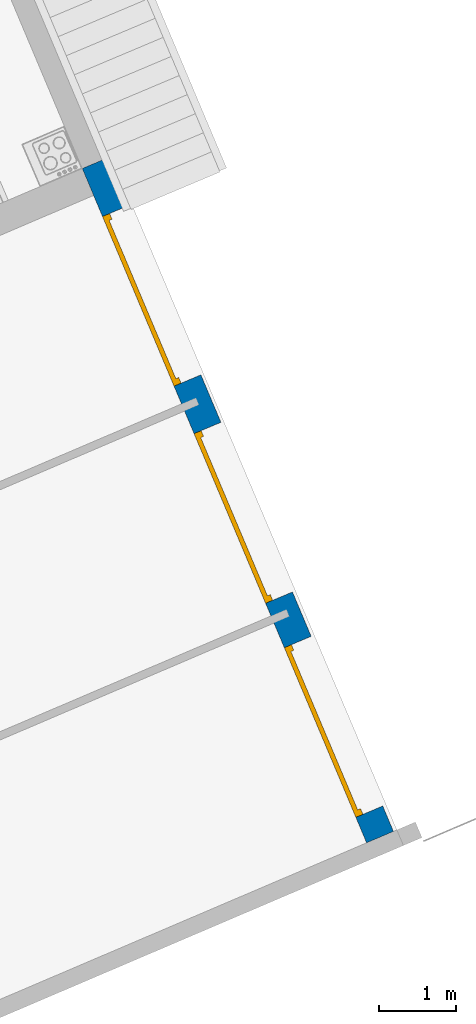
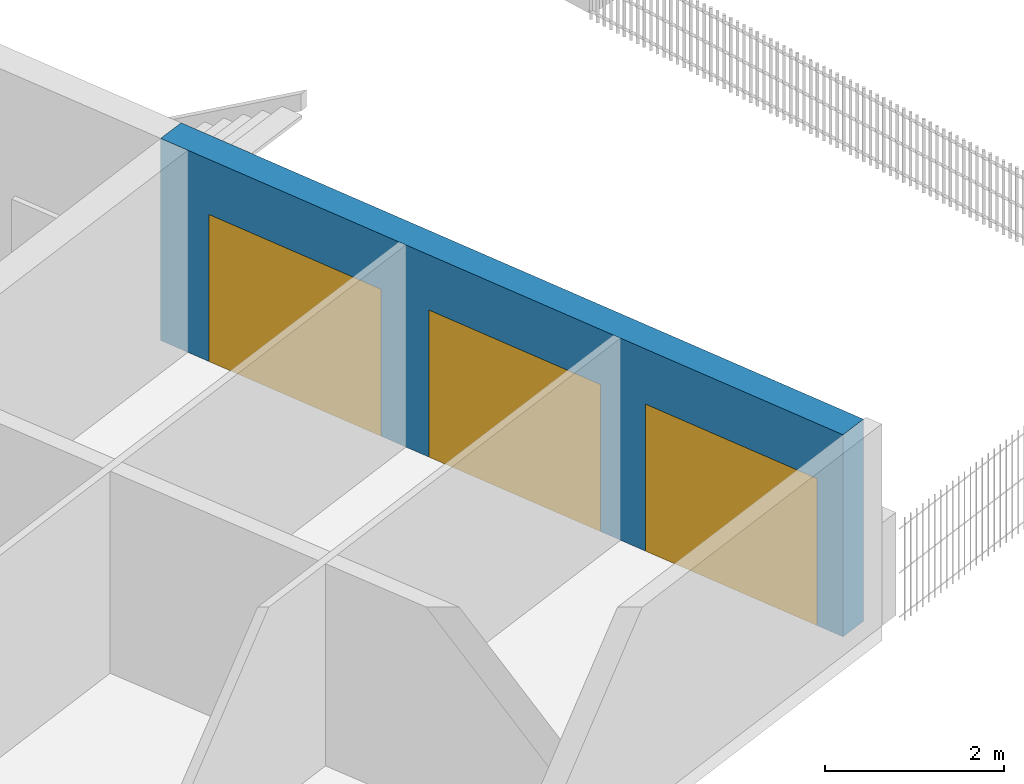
# One storey, part 35 of 195: 3 doors, 1 wall, 3 openings.
"""IFC2X3 building model written with IfcOpenShell, lengths in metres."""

import ifcopenshell
import ifcopenshell.guid

model = None  # the IFC model being written
_history = None  # IfcOwnerHistory: only IFC2X3 demands one
_inside = {}  # id of a spatial element -> (the spatial element, [elements in it])
_under = {}  # id of a project, library or spatial element -> (it, [spatial elements below it])
_declared = {}  # id of a project -> (the project, [libraries it declares])
_typed = {}  # id of a type object -> (the type object, [elements of that type])
_made_of = {}  # id of a material, layer set ... -> (it, [elements and type objects made of it])


def new_model(schema):
    """Start an empty IFC model of exactly this schema.

    Asked for "IFC4X3", IfcOpenShell would pick the latest addendum, in which some entities
    have other attributes; the version numbers below select the first issue.
    IFC2X3 requires an IfcOwnerHistory on every rooted entity: one is made here for all.
    """
    global model, _history
    if schema == "IFC4X3":
        model = ifcopenshell.file(schema_version=(4, 3, 0, 0))
    else:
        model = ifcopenshell.file(schema=schema)
    _inside.clear()
    _under.clear()
    _declared.clear()
    _typed.clear()
    _made_of.clear()
    _history = None
    if model.schema == "IFC2X3":
        org = make("IfcOrganization", Name="unknown")
        user = make(
            "IfcPersonAndOrganization",
            ThePerson=make("IfcPerson", FamilyName="unknown"),
            TheOrganization=org,
        )
        app = make(
            "IfcApplication",
            ApplicationDeveloper=org,
            Version="unknown",
            ApplicationFullName="unknown",
            ApplicationIdentifier="unknown",
        )
        _history = make(
            "IfcOwnerHistory",
            OwningUser=user,
            OwningApplication=app,
            ChangeAction="ADDED",
            CreationDate=0,
        )
    return model


def make(cls, **values):
    """One entity of the class cls with the attributes given. An attribute that is None is left unset."""
    return model.create_entity(
        cls, **{name: value for name, value in values.items() if value is not None}
    )


def entity(cls, *values):
    """Any entity or typed value of the class cls, its attributes in the order of the schema. None: left unset."""
    e = model.create_entity(cls)
    for i, value in enumerate(values):
        if value is not None:
            e[i] = value
    return e


def rooted(cls, **values):
    """An entity with a GlobalId (a new one), such as an element, a storey or a relation."""
    return make(cls, GlobalId=ifcopenshell.guid.new(), OwnerHistory=_history, **values)


def si_unit(unit_type, name, prefix=None):
    """IfcSIUnit, for example si_unit("LENGTHUNIT", "METRE", prefix="MILLI")."""
    return make("IfcSIUnit", UnitType=unit_type, Prefix=prefix, Name=name)


def converted_unit(unit_type, name, factor, base, dimensions=None, offset=None):
    """IfcConversionBasedUnit, such as the inch: factor (a typed value) times the base unit."""
    return make(
        "IfcConversionBasedUnit"
        if offset is None
        else "IfcConversionBasedUnitWithOffset",
        ConversionOffset=offset,
        Dimensions=None
        if dimensions is None
        else entity("IfcDimensionalExponents", *dimensions),
        UnitType=unit_type,
        Name=name,
        ConversionFactor=make(
            "IfcMeasureWithUnit", ValueComponent=factor, UnitComponent=base
        ),
    )


def derived_unit(unit_type, elements):
    """IfcDerivedUnit: a product of units, each with its exponent."""
    return make(
        "IfcDerivedUnit",
        Elements=[
            make("IfcDerivedUnitElement", Unit=unit, Exponent=power)
            for unit, power in elements
        ],
        UnitType=unit_type,
    )


def money_unit(currency):
    """IfcMonetaryUnit."""
    return make("IfcMonetaryUnit", Currency=currency)


def assignment(units):
    """IfcUnitAssignment: the units of a project."""
    return None if units is None else make("IfcUnitAssignment", Units=units)


def point(xyz):
    """IfcCartesianPoint."""
    return None if xyz is None else make("IfcCartesianPoint", Coordinates=xyz)


def direction(xyz):
    """IfcDirection."""
    return None if xyz is None else make("IfcDirection", DirectionRatios=xyz)


def frame(location, z_axis=None, x_axis=None):
    """IfcAxis2Placement3D, a coordinate frame: its origin and axes. An axis left out is left unset."""
    return make(
        "IfcAxis2Placement3D",
        Location=point(location),
        Axis=direction(z_axis),
        RefDirection=direction(x_axis),
    )


def frame_2d(location, x_axis=None):
    """IfcAxis2Placement2D, a coordinate frame in the plane: its origin and x axis."""
    return make(
        "IfcAxis2Placement2D", Location=point(location), RefDirection=direction(x_axis)
    )


def origin_with_axes():
    """The frame at (0, 0, 0) with the z axis (0, 0, 1) and the x axis (1, 0, 0) written out."""
    return frame((0.0, 0.0, 0.0), z_axis=(0.0, 0.0, 1.0), x_axis=(1.0, 0.0, 0.0))


def origin_2d_with_axis():
    """The frame at (0, 0) in the plane with the x axis (1, 0) written out."""
    return frame_2d((0.0, 0.0), x_axis=(1.0, 0.0))


def place(relative_to, where):
    """IfcLocalPlacement: puts the frame where relative to a parent placement (None: the world)."""
    return make(
        "IfcLocalPlacement", PlacementRelTo=relative_to, RelativePlacement=where
    )


def context(
    kind, dimensions, precision=None, world=None, true_north=None, identifier=None
):
    """IfcGeometricRepresentationContext, for example the 3D "Model" context."""
    return make(
        "IfcGeometricRepresentationContext",
        ContextIdentifier=identifier,
        ContextType=kind,
        CoordinateSpaceDimension=dimensions,
        Precision=precision,
        WorldCoordinateSystem=world,
        TrueNorth=true_north,
    )


def subcontext(parent, identifier, kind, view, scale=None):
    """IfcGeometricRepresentationSubContext, for example "Body" below "Model"."""
    return make(
        "IfcGeometricRepresentationSubContext",
        ContextIdentifier=identifier,
        ContextType=kind,
        ParentContext=parent,
        TargetScale=scale,
        TargetView=view,
    )


def project(units=None, contexts=None):
    """IfcProject with its units and contexts."""
    return rooted(
        "IfcProject",
        Name="project",
        RepresentationContexts=contexts,
        UnitsInContext=assignment(units),
    )


def spatial(cls, under=None, at=None, **own):
    """A site, building, storey or space (cls), placed at a placement, below another one or the project."""
    s = rooted(cls, ObjectPlacement=at, **own)
    if under is not None:
        _under.setdefault(under.id(), (under, []))[1].append(s)
    return s


def polyline(points):
    """IfcPolyline through the points."""
    return make("IfcPolyline", Points=[point(p) for p in points])


def profile(cls, at=None, kind="AREA", **sizes):
    """A parametric profile (cls). Its sizes go by their IFC names, for example OverallWidth=200.0."""
    return make(cls, ProfileType=kind, Position=at, **sizes)


def rectangle(**sizes):
    """IfcRectangleProfileDef."""
    return profile("IfcRectangleProfileDef", **sizes)


def outline(outer, holes=None, kind="AREA"):
    """IfcArbitraryClosedProfileDef: a profile drawn as a closed curve; with holes, ...WithVoids."""
    if holes is None:
        return make("IfcArbitraryClosedProfileDef", ProfileType=kind, OuterCurve=outer)
    return make(
        "IfcArbitraryProfileDefWithVoids",
        ProfileType=kind,
        OuterCurve=outer,
        InnerCurves=holes,
    )


def extrude(swept, where, along, depth):
    """IfcExtrudedAreaSolid: the profile swept, set in the frame where, extruded along a direction by depth."""
    return make(
        "IfcExtrudedAreaSolid",
        SweptArea=swept,
        Position=where,
        ExtrudedDirection=direction(along),
        Depth=depth,
    )


def faces_of(points, faces, orient=None, outer=None):
    """IfcFace entities. A face is a list of loops; a loop is a list of indices into points, from 0.

    orient and outer hold one flag for each loop. By default every Orientation is true, the
    first loop of a face is its IfcFaceOuterBound and the others are IfcFaceBound.
    """
    made = []
    for i, loops in enumerate(faces):
        bounds = []
        for j, loop in enumerate(loops):
            is_outer = j == 0 if outer is None else outer[i][j]
            bounds.append(
                make(
                    "IfcFaceOuterBound" if is_outer else "IfcFaceBound",
                    Bound=make("IfcPolyLoop", Polygon=[points[k] for k in loop]),
                    Orientation=True if orient is None else orient[i][j],
                )
            )
        made.append(make("IfcFace", Bounds=bounds))
    return made


def faceted_brep(points, faces, orient=None, outer=None, voids=None):
    """IfcFacetedBrep: a solid bounded by flat faces; with voids (closed shells), ...WithVoids."""
    shared = [point(p) for p in points]
    hull = make("IfcClosedShell", CfsFaces=faces_of(shared, faces, orient, outer))
    if voids is None:
        return make("IfcFacetedBrep", Outer=hull)
    return make(
        "IfcFacetedBrepWithVoids",
        Outer=hull,
        Voids=[
            make(cls, CfsFaces=faces_of(shared, fs, o, b)) for cls, fs, o, b in voids
        ],
    )


def shape(context_of_items, identifier, shape_type, items):
    """IfcShapeRepresentation: the items that make up one representation, for example the "Body"."""
    return make(
        "IfcShapeRepresentation",
        ContextOfItems=context_of_items,
        RepresentationIdentifier=identifier,
        RepresentationType=shape_type,
        Items=items,
    )


def source(mapping_origin, context_of_items, identifier, shape_type, items):
    """IfcRepresentationMap: a shape defined once, which mapped items show again and again."""
    return make(
        "IfcRepresentationMap",
        MappingOrigin=mapping_origin,
        MappedRepresentation=shape(context_of_items, identifier, shape_type, items),
    )


def transform(
    local_origin,
    x_axis=None,
    y_axis=None,
    z_axis=None,
    scale=None,
    scale2=None,
    scale3=None,
    uniform=True,
):
    """IfcCartesianTransformationOperator3D, or its non-uniform kind. x_axis, y_axis, z_axis: its Axis1, 2, 3."""
    if uniform:
        return make(
            "IfcCartesianTransformationOperator3D",
            Axis1=direction(x_axis),
            Axis2=direction(y_axis),
            LocalOrigin=point(local_origin),
            Scale=scale,
            Axis3=direction(z_axis),
        )
    return make(
        "IfcCartesianTransformationOperator3DnonUniform",
        Axis1=direction(x_axis),
        Axis2=direction(y_axis),
        LocalOrigin=point(local_origin),
        Scale=scale,
        Axis3=direction(z_axis),
        Scale2=scale2,
        Scale3=scale3,
    )


def mapped(mapping_source, mapping_target):
    """IfcMappedItem: shows the shape of a source again, moved by a transform."""
    return make(
        "IfcMappedItem", MappingSource=mapping_source, MappingTarget=mapping_target
    )


def material(Name=None, Category=None):
    """IfcMaterial."""
    return make("IfcMaterial", Name=Name, Category=Category)


def layer(
    of_material, thickness, ventilated=None, Name=None, Category=None, Priority=None
):
    """IfcMaterialLayer: one layer of a wall or slab, of a material (None: an air gap)."""
    return make(
        "IfcMaterialLayer",
        Material=of_material,
        LayerThickness=thickness,
        IsVentilated=ventilated,
        Name=Name,
        Category=Category,
        Priority=Priority,
    )


def layer_set(layers, Name=None):
    """IfcMaterialLayerSet."""
    return make("IfcMaterialLayerSet", MaterialLayers=layers, LayerSetName=Name)


def layer_usage(for_layer_set, set_direction, sense, offset, extent=None):
    """IfcMaterialLayerSetUsage: how a layer set lies in its element."""
    return make(
        "IfcMaterialLayerSetUsage",
        ForLayerSet=for_layer_set,
        LayerSetDirection=set_direction,
        DirectionSense=sense,
        OffsetFromReferenceLine=offset,
        ReferenceExtent=extent,
    )


def made_of(thing, what):
    """Note that an element or type object is made of a material, layer set ...; save() writes the relation."""
    if what is not None:
        _made_of.setdefault(what.id(), (what, []))[1].append(thing)
    return thing


def type_object(cls, material=None, **own):
    """A type object (cls), such as IfcWallType, which elements share."""
    return made_of(rooted(cls, **own), material)


def element(
    cls,
    number,
    at=None,
    inside=None,
    cuts=None,
    type_object=None,
    material=None,
    context=None,
    identifier="Body",
    shape_type=None,
    held_by="IfcProductDefinitionShape",
    body=None,
    shapes=None,
    **own,
):
    """One element of the class cls, such as IfcWall. Its Tag is "e" and its number.

    at: its placement. inside: the storey or other place that contains it. cuts: it is an
    opening in that element (IfcRelVoidsElement). A single representation is given by context,
    identifier, shape_type and body (its items); several are given by shapes. held_by: the class
    of the entity that holds the representations. save() writes the other relations.
    """
    e = rooted(cls, Tag="e%d" % number, ObjectPlacement=at, **own)
    if body is not None:
        shapes = [shape(context, identifier, shape_type, body)]
    if shapes is not None:
        e.Representation = make(held_by, Representations=shapes)
    if inside is not None:
        _inside.setdefault(inside.id(), (inside, []))[1].append(e)
    if cuts is not None:
        rooted(
            "IfcRelVoidsElement", RelatingBuildingElement=cuts, RelatedOpeningElement=e
        )
    if type_object is not None:
        _typed.setdefault(type_object.id(), (type_object, []))[1].append(e)
    return made_of(e, material)


def fill(opening, filler):
    """IfcRelFillsElement: the door or window that sits in an opening."""
    return rooted(
        "IfcRelFillsElement",
        RelatingOpeningElement=opening,
        RelatedBuildingElement=filler,
    )


def aggregate(whole, parts):
    """IfcRelAggregates: a whole, such as a stair, and the parts it consists of."""
    return rooted("IfcRelAggregates", RelatingObject=whole, RelatedObjects=parts)


def save(model, path):
    """Write the relations noted so far, then the file.

    IfcRelAggregates (storeys below a building ...), IfcRelContainedInSpatialStructure (elements
    in a storey), IfcRelDefinesByType, IfcRelAssociatesMaterial and IfcRelDeclares: one each for
    every whole, place, type object, material and project.
    """
    for whole, parts in _under.values():
        aggregate(whole, parts)
    for where, things in _inside.values():
        rooted(
            "IfcRelContainedInSpatialStructure",
            RelatedElements=things,
            RelatingStructure=where,
        )
    for kind, things in _typed.values():
        rooted("IfcRelDefinesByType", RelatedObjects=things, RelatingType=kind)
    for what, things in _made_of.values():
        rooted("IfcRelAssociatesMaterial", RelatedObjects=things, RelatingMaterial=what)
    for by, libraries in _declared.values():
        rooted("IfcRelDeclares", RelatingContext=by, RelatedDefinitions=libraries)
    model.write(path)


model = new_model("IFC2X3")

# Units and contexts
model_context = context("Model", 3, precision=1e-05, world=origin_with_axes(), true_north=direction((0.0, 1.0)))
body_context = subcontext(model_context, "Body", "Model", "MODEL_VIEW")
ifc_project = project(units=[si_unit("LENGTHUNIT", "METRE"), si_unit("AREAUNIT", "SQUARE_METRE"), si_unit("VOLUMEUNIT", "CUBIC_METRE"), converted_unit("PLANEANGLEUNIT", "DEGREE", entity("IfcPlaneAngleMeasure", 0.0174532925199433), si_unit("PLANEANGLEUNIT", "RADIAN"), dimensions=[0, 0, 0, 0, 0, 0, 0]), money_unit("CHF"), converted_unit("TIMEUNIT", "Year", entity("IfcTimeMeasure", 31557600.0), si_unit("TIMEUNIT", "SECOND"), dimensions=[0, 0, 1, 0, 0, 0, 0]), si_unit("MASSUNIT", "GRAM", prefix="KILO"), si_unit("THERMODYNAMICTEMPERATUREUNIT", "DEGREE_CELSIUS"), si_unit("LUMINOUSINTENSITYUNIT", "LUMEN"), si_unit("ENERGYUNIT", "JOULE", prefix="MEGA"), derived_unit("THERMALCONDUCTANCEUNIT", [(si_unit("POWERUNIT", "WATT"), 1), (si_unit("LENGTHUNIT", "METRE"), -1), (si_unit("THERMODYNAMICTEMPERATUREUNIT", "KELVIN"), -1)]), derived_unit("SPECIFICHEATCAPACITYUNIT", [(si_unit("ENERGYUNIT", "JOULE"), 1), (si_unit("MASSUNIT", "GRAM", prefix="KILO"), -1), (si_unit("THERMODYNAMICTEMPERATUREUNIT", "KELVIN"), -1)]), derived_unit("MASSDENSITYUNIT", [(si_unit("MASSUNIT", "GRAM", prefix="KILO"), 1), (si_unit("VOLUMEUNIT", "CUBIC_METRE"), -1)])], contexts=[model_context])

# Site, building, storey
site_placement = place(None, origin_with_axes())
site = spatial("IfcSite", under=ifc_project, at=site_placement, Name="Site", CompositionType="ELEMENT")
building_placement = place(site_placement, origin_with_axes())
building = spatial("IfcBuilding", under=site, at=building_placement, Name="Bâtiment", CompositionType="ELEMENT")
storey_placement = place(building_placement, origin_with_axes())
storey = spatial("IfcBuildingStorey", under=building, at=storey_placement, Name="rdc", CompositionType="ELEMENT", Elevation=0.0)

# Wall, openings, doors
ifc_material_1 = material(Name="Parpaing 312445824")
ifc_layer_1 = layer(ifc_material_1, 0.22, ventilated="UNKNOWN")
ifc_material_2 = material(Name="Isolant styromousse 301821074")
ifc_layer_2 = layer(ifc_material_2, 0.16, ventilated="UNKNOWN")
ifc_layer_set = layer_set([ifc_layer_1, ifc_layer_2], Name="isol int 22+16 0836643197")
ifc_layer_usage = layer_usage(ifc_layer_set, "AXIS2", "POSITIVE", 0.0)
wall_type = type_object("IfcWallType", Name="isol int 22+16 0836643197 380", PredefinedType="NOTDEFINED")
wall_placement = place(storey_placement, frame((9578.971806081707, -1062.790035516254, 57.7), z_axis=(0.0, 0.0, 1.0), x_axis=(-0.3885669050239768, 0.9214205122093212, 0.0)))
wall = element("IfcWallStandardCase", 1, at=wall_placement, inside=storey, type_object=wall_type, material=ifc_layer_usage, Name="Mur-113", context=body_context, shape_type="SweptSolid", body=[
    extrude(outline(polyline([(0.2200022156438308, 0.0), (9.760098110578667, 0.0), (9.76009811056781, 0.3799999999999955), (0.2182967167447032, 0.3799999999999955), (0.2200022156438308, 0.0)])), origin_with_axes(), (0.0, 0.0, 1.0), 2.75),
])
opening_1_placement = place(wall_placement, frame((1.779579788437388, 0.0, 0.0), z_axis=(0.0, 0.0, 1.0), x_axis=(1.0, 0.0, 0.0)))
opening_1 = element("IfcOpeningElement", 2, at=opening_1_placement, cuts=wall, Name="Por-301", context=body_context, shape_type="SweptSolid", body=[
    extrude(rectangle(XDim=2.399999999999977, YDim=2.0, at=origin_2d_with_axis()), frame((0.0, 0.3800000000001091, 1.0), z_axis=(0.0, -1.0, 0.0), x_axis=(1.0, 0.0, 0.0)), (0.0, 0.0, -1.0), 0.38),
    extrude(rectangle(XDim=2.399999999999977, YDim=2.0, at=origin_2d_with_axis()), frame((0.0, 0.3800000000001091, 1.0), z_axis=(0.0, 1.0, 0.0), x_axis=(1.0, 0.0, 0.0)), (0.0, 0.0, -1.0), 0.38),
])
opening_2_placement = place(wall_placement, frame((4.807941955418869, 0.0, 0.0), z_axis=(0.0, 0.0, 1.0), x_axis=(1.0, 0.0, 0.0)))
opening_2 = element("IfcOpeningElement", 3, at=opening_2_placement, cuts=wall, Name="Por-302", context=body_context, shape_type="SweptSolid", body=[
    extrude(rectangle(XDim=2.39999999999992, YDim=2.0, at=origin_2d_with_axis()), frame((0.0, 0.3799999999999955, 1.0), z_axis=(0.0, -1.0, 0.0), x_axis=(1.0, 0.0, 0.0)), (0.0, 0.0, -1.0), 0.38),
    extrude(rectangle(XDim=2.39999999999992, YDim=2.0, at=origin_2d_with_axis()), frame((0.0, 0.3799999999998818, 1.0), z_axis=(0.0, 1.0, 0.0), x_axis=(1.0, 0.0, 0.0)), (0.0, 0.0, -1.0), 0.38),
])
opening_3_placement = place(wall_placement, frame((7.880098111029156, 0.0, 0.0), z_axis=(0.0, 0.0, 1.0), x_axis=(1.0, 0.0, 0.0)))
opening_3 = element("IfcOpeningElement", 4, at=opening_3_placement, cuts=wall, Name="Por-303", context=body_context, shape_type="SweptSolid", body=[
    extrude(rectangle(XDim=2.399999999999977, YDim=2.0, at=origin_2d_with_axis()), frame((0.0, 0.3799999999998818, 1.0), z_axis=(0.0, -1.0, 0.0), x_axis=(1.0, 0.0, 0.0)), (0.0, 0.0, -1.0), 0.38),
    extrude(rectangle(XDim=2.399999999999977, YDim=2.0, at=origin_2d_with_axis()), frame((0.0, 0.3799999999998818, 1.0), z_axis=(0.0, 1.0, 0.0), x_axis=(1.0, 0.0, 0.0)), (0.0, 0.0, -1.0), 0.38),
])
door_style = type_object("IfcDoorStyle", ConstructionType="NOTDEFINED", OperationType="NOTDEFINED", ParameterTakesPrecedence=False, Sizeable=False)
shared_shape_1 = source(origin_with_axes(), body_context, "Body", "Brep", [
    faceted_brep([(-1.2, 0.0, 0.0), (-1.2, -0.09999999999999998, 0.0), (-1.2, -0.09999999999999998, 2.0), (-1.2, 0.0, 2.0), (-1.12, 0.0, 0.0), (-1.12, -0.09999999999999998, 0.0), (-1.12, -0.09999999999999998, 1.92), (1.12, -0.09999999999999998, 1.92), (1.12, -0.09999999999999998, 0.0), (1.2, -0.09999999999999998, 0.0), (1.2, -0.09999999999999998, 2.0), (1.2, 0.0, 2.0), (1.2, 0.0, 0.0), (1.12, 0.0, 0.0), (1.12, 0.0, 1.92), (-1.12, 0.0, 1.92)], [[[0, 1, 2, 3]], [[4, 5, 1, 0]], [[1, 5, 6, 7, 8, 9, 10, 2]], [[3, 2, 10, 11]], [[0, 3, 11, 12, 13, 14, 15, 4]], [[15, 6, 5, 4]], [[14, 7, 6, 15]], [[13, 8, 7, 14]], [[12, 9, 8, 13]], [[11, 10, 9, 12]]]),
    faceted_brep([(-1.12, -0.03999999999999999, 0.0), (-1.12, -0.05999999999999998, 0.0), (-1.12, -0.05999999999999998, 0.09157894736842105), (-1.12, -0.03999999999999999, 0.09157894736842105), (1.12, -0.03999999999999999, 0.0), (1.12, -0.05999999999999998, 0.0), (1.12, -0.05999999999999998, 0.09157894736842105), (1.12, -0.03999999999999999, 0.09157894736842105)], [[[0, 1, 2, 3]], [[4, 5, 1, 0]], [[1, 5, 6, 2]], [[3, 2, 6, 7]], [[0, 3, 7, 4]], [[7, 6, 5, 4]]]),
    faceted_brep([(-1.12, -0.03999999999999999, 0.101578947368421), (-1.12, -0.05999999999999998, 0.101578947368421), (-1.12, -0.05999999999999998, 0.1931578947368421), (-1.12, -0.03999999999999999, 0.1931578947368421), (1.12, -0.03999999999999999, 0.101578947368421), (1.12, -0.05999999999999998, 0.101578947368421), (1.12, -0.05999999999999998, 0.1931578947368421), (1.12, -0.03999999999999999, 0.1931578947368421)], [[[0, 1, 2, 3]], [[4, 5, 1, 0]], [[1, 5, 6, 2]], [[3, 2, 6, 7]], [[0, 3, 7, 4]], [[7, 6, 5, 4]]]),
    faceted_brep([(-1.12, -0.03999999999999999, 0.2031578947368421), (-1.12, -0.05999999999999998, 0.2031578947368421), (-1.12, -0.05999999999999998, 0.2947368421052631), (-1.12, -0.03999999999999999, 0.2947368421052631), (1.12, -0.03999999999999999, 0.2031578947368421), (1.12, -0.05999999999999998, 0.2031578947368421), (1.12, -0.05999999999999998, 0.2947368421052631), (1.12, -0.03999999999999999, 0.2947368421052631)], [[[0, 1, 2, 3]], [[4, 5, 1, 0]], [[1, 5, 6, 2]], [[3, 2, 6, 7]], [[0, 3, 7, 4]], [[7, 6, 5, 4]]]),
    faceted_brep([(-1.12, -0.03999999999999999, 0.3047368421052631), (-1.12, -0.05999999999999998, 0.3047368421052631), (-1.12, -0.05999999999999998, 0.3963157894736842), (-1.12, -0.03999999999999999, 0.3963157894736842), (1.12, -0.03999999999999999, 0.3047368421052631), (1.12, -0.05999999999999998, 0.3047368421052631), (1.12, -0.05999999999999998, 0.3963157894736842), (1.12, -0.03999999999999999, 0.3963157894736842)], [[[0, 1, 2, 3]], [[4, 5, 1, 0]], [[1, 5, 6, 2]], [[3, 2, 6, 7]], [[0, 3, 7, 4]], [[7, 6, 5, 4]]]),
    faceted_brep([(-1.12, -0.03999999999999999, 0.4063157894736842), (-1.12, -0.05999999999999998, 0.4063157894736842), (-1.12, -0.05999999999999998, 0.4978947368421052), (-1.12, -0.03999999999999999, 0.4978947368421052), (1.12, -0.03999999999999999, 0.4063157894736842), (1.12, -0.05999999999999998, 0.4063157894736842), (1.12, -0.05999999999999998, 0.4978947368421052), (1.12, -0.03999999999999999, 0.4978947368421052)], [[[0, 1, 2, 3]], [[4, 5, 1, 0]], [[1, 5, 6, 2]], [[3, 2, 6, 7]], [[0, 3, 7, 4]], [[7, 6, 5, 4]]]),
    faceted_brep([(-1.12, -0.03999999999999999, 0.5078947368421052), (-1.12, -0.05999999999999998, 0.5078947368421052), (-1.12, -0.05999999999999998, 0.5994736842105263), (-1.12, -0.03999999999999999, 0.5994736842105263), (1.12, -0.03999999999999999, 0.5078947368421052), (1.12, -0.05999999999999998, 0.5078947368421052), (1.12, -0.05999999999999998, 0.5994736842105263), (1.12, -0.03999999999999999, 0.5994736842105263)], [[[0, 1, 2, 3]], [[4, 5, 1, 0]], [[1, 5, 6, 2]], [[3, 2, 6, 7]], [[0, 3, 7, 4]], [[7, 6, 5, 4]]]),
    faceted_brep([(-1.12, -0.03999999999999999, 0.6094736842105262), (-1.12, -0.05999999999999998, 0.6094736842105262), (-1.12, -0.05999999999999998, 0.7010526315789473), (-1.12, -0.03999999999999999, 0.7010526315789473), (1.12, -0.03999999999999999, 0.6094736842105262), (1.12, -0.05999999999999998, 0.6094736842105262), (1.12, -0.05999999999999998, 0.7010526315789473), (1.12, -0.03999999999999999, 0.7010526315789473)], [[[0, 1, 2, 3]], [[4, 5, 1, 0]], [[1, 5, 6, 2]], [[3, 2, 6, 7]], [[0, 3, 7, 4]], [[7, 6, 5, 4]]]),
    faceted_brep([(-1.12, -0.03999999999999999, 0.7110526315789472), (-1.12, -0.05999999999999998, 0.7110526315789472), (-1.12, -0.05999999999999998, 0.8026315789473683), (-1.12, -0.03999999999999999, 0.8026315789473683), (1.12, -0.03999999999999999, 0.7110526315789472), (1.12, -0.05999999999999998, 0.7110526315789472), (1.12, -0.05999999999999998, 0.8026315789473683), (1.12, -0.03999999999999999, 0.8026315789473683)], [[[0, 1, 2, 3]], [[4, 5, 1, 0]], [[1, 5, 6, 2]], [[3, 2, 6, 7]], [[0, 3, 7, 4]], [[7, 6, 5, 4]]]),
    faceted_brep([(-1.12, -0.03999999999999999, 0.8126315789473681), (-1.12, -0.05999999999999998, 0.8126315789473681), (-1.12, -0.05999999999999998, 0.9042105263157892), (-1.12, -0.03999999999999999, 0.9042105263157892), (1.12, -0.03999999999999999, 0.8126315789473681), (1.12, -0.05999999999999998, 0.8126315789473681), (1.12, -0.05999999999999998, 0.9042105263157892), (1.12, -0.03999999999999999, 0.9042105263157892)], [[[0, 1, 2, 3]], [[4, 5, 1, 0]], [[1, 5, 6, 2]], [[3, 2, 6, 7]], [[0, 3, 7, 4]], [[7, 6, 5, 4]]]),
    faceted_brep([(-1.12, -0.03999999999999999, 0.9142105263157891), (-1.12, -0.05999999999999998, 0.9142105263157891), (-1.12, -0.05999999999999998, 1.00578947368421), (-1.12, -0.03999999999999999, 1.00578947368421), (1.12, -0.03999999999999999, 0.9142105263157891), (1.12, -0.05999999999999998, 0.9142105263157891), (1.12, -0.05999999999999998, 1.00578947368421), (1.12, -0.03999999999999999, 1.00578947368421)], [[[0, 1, 2, 3]], [[4, 5, 1, 0]], [[1, 5, 6, 2]], [[3, 2, 6, 7]], [[0, 3, 7, 4]], [[7, 6, 5, 4]]]),
    faceted_brep([(-1.12, -0.03999999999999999, 1.01578947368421), (-1.12, -0.05999999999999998, 1.01578947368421), (-1.12, -0.05999999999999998, 1.107368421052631), (-1.12, -0.03999999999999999, 1.107368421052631), (1.12, -0.03999999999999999, 1.01578947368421), (1.12, -0.05999999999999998, 1.01578947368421), (1.12, -0.05999999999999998, 1.107368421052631), (1.12, -0.03999999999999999, 1.107368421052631)], [[[0, 1, 2, 3]], [[4, 5, 1, 0]], [[1, 5, 6, 2]], [[3, 2, 6, 7]], [[0, 3, 7, 4]], [[7, 6, 5, 4]]]),
    faceted_brep([(-1.12, -0.03999999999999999, 1.117368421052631), (-1.12, -0.05999999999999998, 1.117368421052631), (-1.12, -0.05999999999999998, 1.208947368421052), (-1.12, -0.03999999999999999, 1.208947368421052), (1.12, -0.03999999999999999, 1.117368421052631), (1.12, -0.05999999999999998, 1.117368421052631), (1.12, -0.05999999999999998, 1.208947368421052), (1.12, -0.03999999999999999, 1.208947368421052)], [[[0, 1, 2, 3]], [[4, 5, 1, 0]], [[1, 5, 6, 2]], [[3, 2, 6, 7]], [[0, 3, 7, 4]], [[7, 6, 5, 4]]]),
    faceted_brep([(-1.12, -0.03999999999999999, 1.218947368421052), (-1.12, -0.05999999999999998, 1.218947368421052), (-1.12, -0.05999999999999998, 1.310526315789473), (-1.12, -0.03999999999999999, 1.310526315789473), (1.12, -0.03999999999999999, 1.218947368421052), (1.12, -0.05999999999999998, 1.218947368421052), (1.12, -0.05999999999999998, 1.310526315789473), (1.12, -0.03999999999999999, 1.310526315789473)], [[[0, 1, 2, 3]], [[4, 5, 1, 0]], [[1, 5, 6, 2]], [[3, 2, 6, 7]], [[0, 3, 7, 4]], [[7, 6, 5, 4]]]),
    faceted_brep([(-1.12, -0.03999999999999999, 1.320526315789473), (-1.12, -0.05999999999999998, 1.320526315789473), (-1.12, -0.05999999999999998, 1.412105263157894), (-1.12, -0.03999999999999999, 1.412105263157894), (1.12, -0.03999999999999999, 1.320526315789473), (1.12, -0.05999999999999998, 1.320526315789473), (1.12, -0.05999999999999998, 1.412105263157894), (1.12, -0.03999999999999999, 1.412105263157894)], [[[0, 1, 2, 3]], [[4, 5, 1, 0]], [[1, 5, 6, 2]], [[3, 2, 6, 7]], [[0, 3, 7, 4]], [[7, 6, 5, 4]]]),
    faceted_brep([(-1.12, -0.03999999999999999, 1.422105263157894), (-1.12, -0.05999999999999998, 1.422105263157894), (-1.12, -0.05999999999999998, 1.513684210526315), (-1.12, -0.03999999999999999, 1.513684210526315), (1.12, -0.03999999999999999, 1.422105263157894), (1.12, -0.05999999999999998, 1.422105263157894), (1.12, -0.05999999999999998, 1.513684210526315), (1.12, -0.03999999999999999, 1.513684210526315)], [[[0, 1, 2, 3]], [[4, 5, 1, 0]], [[1, 5, 6, 2]], [[3, 2, 6, 7]], [[0, 3, 7, 4]], [[7, 6, 5, 4]]]),
    faceted_brep([(-1.12, -0.03999999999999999, 1.523684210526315), (-1.12, -0.05999999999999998, 1.523684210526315), (-1.12, -0.05999999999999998, 1.615263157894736), (-1.12, -0.03999999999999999, 1.615263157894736), (1.12, -0.03999999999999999, 1.523684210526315), (1.12, -0.05999999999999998, 1.523684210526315), (1.12, -0.05999999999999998, 1.615263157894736), (1.12, -0.03999999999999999, 1.615263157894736)], [[[0, 1, 2, 3]], [[4, 5, 1, 0]], [[1, 5, 6, 2]], [[3, 2, 6, 7]], [[0, 3, 7, 4]], [[7, 6, 5, 4]]]),
    faceted_brep([(-1.12, -0.03999999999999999, 1.625263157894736), (-1.12, -0.05999999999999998, 1.625263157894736), (-1.12, -0.05999999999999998, 1.716842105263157), (-1.12, -0.03999999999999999, 1.716842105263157), (1.12, -0.03999999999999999, 1.625263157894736), (1.12, -0.05999999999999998, 1.625263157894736), (1.12, -0.05999999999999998, 1.716842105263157), (1.12, -0.03999999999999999, 1.716842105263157)], [[[0, 1, 2, 3]], [[4, 5, 1, 0]], [[1, 5, 6, 2]], [[3, 2, 6, 7]], [[0, 3, 7, 4]], [[7, 6, 5, 4]]]),
    faceted_brep([(-1.12, -0.03999999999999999, 1.726842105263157), (-1.12, -0.05999999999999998, 1.726842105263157), (-1.12, -0.05999999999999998, 1.818421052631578), (-1.12, -0.03999999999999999, 1.818421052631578), (1.12, -0.03999999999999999, 1.726842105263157), (1.12, -0.05999999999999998, 1.726842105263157), (1.12, -0.05999999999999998, 1.818421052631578), (1.12, -0.03999999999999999, 1.818421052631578)], [[[0, 1, 2, 3]], [[4, 5, 1, 0]], [[1, 5, 6, 2]], [[3, 2, 6, 7]], [[0, 3, 7, 4]], [[7, 6, 5, 4]]]),
    faceted_brep([(-1.12, -0.03999999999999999, 1.828421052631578), (-1.12, -0.05999999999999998, 1.828421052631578), (-1.12, -0.05999999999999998, 1.919999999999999), (-1.12, -0.03999999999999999, 1.919999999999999), (1.12, -0.03999999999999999, 1.828421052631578), (1.12, -0.05999999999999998, 1.828421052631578), (1.12, -0.05999999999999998, 1.919999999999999), (1.12, -0.03999999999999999, 1.919999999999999)], [[[0, 1, 2, 3]], [[4, 5, 1, 0]], [[1, 5, 6, 2]], [[3, 2, 6, 7]], [[0, 3, 7, 4]], [[7, 6, 5, 4]]]),
    faceted_brep([(1.12, -0.05999999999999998, 0.0), (1.12, -0.09999999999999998, 0.0), (-1.12, -0.09999999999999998, 0.0), (-1.12, -0.05999999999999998, 0.0), (1.12, -0.05999999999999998, 1.92), (1.12, -0.09999999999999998, 1.92), (-1.12, -0.09999999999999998, 1.92), (-1.12, -0.05999999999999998, 1.92)], [[[0, 1, 2, 3]], [[4, 5, 1, 0]], [[1, 5, 6, 2]], [[3, 2, 6, 7]], [[0, 3, 7, 4]], [[7, 6, 5, 4]]]),
])
door_1_placement = place(opening_1_placement, frame((1.200000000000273, 0.0, 0.0), z_axis=(0.0, 0.0, 1.0), x_axis=(-1.0, 0.0, 0.0)))
door_1 = element("IfcDoor", 5, at=door_1_placement, inside=storey, type_object=door_style, Name="Por-301", OverallHeight=2.0, OverallWidth=2.4, context=body_context, shape_type="MappedRepresentation", body=[
    mapped(shared_shape_1, transform((1.199999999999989, -0.2799999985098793, 0.0))),
])
fill(opening_1, door_1)
shared_shape_2 = source(origin_with_axes(), body_context, "Body", "Brep", [
    faceted_brep([(1.2, 0.0, 0.0), (1.2, 0.0, 2.0), (1.2, -0.09999999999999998, 2.0), (1.2, -0.09999999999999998, 0.0), (1.12, 0.0, 0.0), (1.12, 0.0, 1.92), (-1.12, 0.0, 1.92), (-1.12, 0.0, 0.0), (-1.2, 0.0, 0.0), (-1.2, 0.0, 2.0), (-1.2, -0.09999999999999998, 2.0), (-1.2, -0.09999999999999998, 0.0), (-1.12, -0.09999999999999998, 0.0), (-1.12, -0.09999999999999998, 1.92), (1.12, -0.09999999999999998, 1.92), (1.12, -0.09999999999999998, 0.0)], [[[0, 1, 2, 3]], [[0, 4, 5, 6, 7, 8, 9, 1]], [[1, 9, 10, 2]], [[3, 2, 10, 11, 12, 13, 14, 15]], [[4, 0, 3, 15]], [[5, 4, 15, 14]], [[6, 5, 14, 13]], [[7, 6, 13, 12]], [[8, 7, 12, 11]], [[9, 8, 11, 10]]]),
    faceted_brep([(1.12, -0.03999999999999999, 0.0), (1.12, -0.03999999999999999, 0.09157894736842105), (1.12, -0.05999999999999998, 0.09157894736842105), (1.12, -0.05999999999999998, 0.0), (-1.12, -0.03999999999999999, 0.0), (-1.12, -0.03999999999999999, 0.09157894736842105), (-1.12, -0.05999999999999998, 0.09157894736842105), (-1.12, -0.05999999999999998, 0.0)], [[[0, 1, 2, 3]], [[0, 4, 5, 1]], [[1, 5, 6, 2]], [[3, 2, 6, 7]], [[4, 0, 3, 7]], [[5, 4, 7, 6]]]),
    faceted_brep([(1.12, -0.03999999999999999, 0.101578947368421), (1.12, -0.03999999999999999, 0.1931578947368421), (1.12, -0.05999999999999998, 0.1931578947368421), (1.12, -0.05999999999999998, 0.101578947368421), (-1.12, -0.03999999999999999, 0.101578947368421), (-1.12, -0.03999999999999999, 0.1931578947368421), (-1.12, -0.05999999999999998, 0.1931578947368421), (-1.12, -0.05999999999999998, 0.101578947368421)], [[[0, 1, 2, 3]], [[0, 4, 5, 1]], [[1, 5, 6, 2]], [[3, 2, 6, 7]], [[4, 0, 3, 7]], [[5, 4, 7, 6]]]),
    faceted_brep([(1.12, -0.03999999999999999, 0.2031578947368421), (1.12, -0.03999999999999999, 0.2947368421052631), (1.12, -0.05999999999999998, 0.2947368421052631), (1.12, -0.05999999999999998, 0.2031578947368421), (-1.12, -0.03999999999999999, 0.2031578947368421), (-1.12, -0.03999999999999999, 0.2947368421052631), (-1.12, -0.05999999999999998, 0.2947368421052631), (-1.12, -0.05999999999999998, 0.2031578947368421)], [[[0, 1, 2, 3]], [[0, 4, 5, 1]], [[1, 5, 6, 2]], [[3, 2, 6, 7]], [[4, 0, 3, 7]], [[5, 4, 7, 6]]]),
    faceted_brep([(1.12, -0.03999999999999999, 0.3047368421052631), (1.12, -0.03999999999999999, 0.3963157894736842), (1.12, -0.05999999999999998, 0.3963157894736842), (1.12, -0.05999999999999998, 0.3047368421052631), (-1.12, -0.03999999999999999, 0.3047368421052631), (-1.12, -0.03999999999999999, 0.3963157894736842), (-1.12, -0.05999999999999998, 0.3963157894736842), (-1.12, -0.05999999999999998, 0.3047368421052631)], [[[0, 1, 2, 3]], [[0, 4, 5, 1]], [[1, 5, 6, 2]], [[3, 2, 6, 7]], [[4, 0, 3, 7]], [[5, 4, 7, 6]]]),
    faceted_brep([(1.12, -0.03999999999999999, 0.4063157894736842), (1.12, -0.03999999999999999, 0.4978947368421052), (1.12, -0.05999999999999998, 0.4978947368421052), (1.12, -0.05999999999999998, 0.4063157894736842), (-1.12, -0.03999999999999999, 0.4063157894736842), (-1.12, -0.03999999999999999, 0.4978947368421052), (-1.12, -0.05999999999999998, 0.4978947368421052), (-1.12, -0.05999999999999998, 0.4063157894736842)], [[[0, 1, 2, 3]], [[0, 4, 5, 1]], [[1, 5, 6, 2]], [[3, 2, 6, 7]], [[4, 0, 3, 7]], [[5, 4, 7, 6]]]),
    faceted_brep([(1.12, -0.03999999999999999, 0.5078947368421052), (1.12, -0.03999999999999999, 0.5994736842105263), (1.12, -0.05999999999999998, 0.5994736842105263), (1.12, -0.05999999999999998, 0.5078947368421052), (-1.12, -0.03999999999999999, 0.5078947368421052), (-1.12, -0.03999999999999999, 0.5994736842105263), (-1.12, -0.05999999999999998, 0.5994736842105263), (-1.12, -0.05999999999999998, 0.5078947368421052)], [[[0, 1, 2, 3]], [[0, 4, 5, 1]], [[1, 5, 6, 2]], [[3, 2, 6, 7]], [[4, 0, 3, 7]], [[5, 4, 7, 6]]]),
    faceted_brep([(1.12, -0.03999999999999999, 0.6094736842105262), (1.12, -0.03999999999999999, 0.7010526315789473), (1.12, -0.05999999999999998, 0.7010526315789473), (1.12, -0.05999999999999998, 0.6094736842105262), (-1.12, -0.03999999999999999, 0.6094736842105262), (-1.12, -0.03999999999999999, 0.7010526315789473), (-1.12, -0.05999999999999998, 0.7010526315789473), (-1.12, -0.05999999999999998, 0.6094736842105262)], [[[0, 1, 2, 3]], [[0, 4, 5, 1]], [[1, 5, 6, 2]], [[3, 2, 6, 7]], [[4, 0, 3, 7]], [[5, 4, 7, 6]]]),
    faceted_brep([(1.12, -0.03999999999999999, 0.7110526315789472), (1.12, -0.03999999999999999, 0.8026315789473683), (1.12, -0.05999999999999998, 0.8026315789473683), (1.12, -0.05999999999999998, 0.7110526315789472), (-1.12, -0.03999999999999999, 0.7110526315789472), (-1.12, -0.03999999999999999, 0.8026315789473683), (-1.12, -0.05999999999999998, 0.8026315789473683), (-1.12, -0.05999999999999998, 0.7110526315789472)], [[[0, 1, 2, 3]], [[0, 4, 5, 1]], [[1, 5, 6, 2]], [[3, 2, 6, 7]], [[4, 0, 3, 7]], [[5, 4, 7, 6]]]),
    faceted_brep([(1.12, -0.03999999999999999, 0.8126315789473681), (1.12, -0.03999999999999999, 0.9042105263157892), (1.12, -0.05999999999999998, 0.9042105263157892), (1.12, -0.05999999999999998, 0.8126315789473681), (-1.12, -0.03999999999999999, 0.8126315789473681), (-1.12, -0.03999999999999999, 0.9042105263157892), (-1.12, -0.05999999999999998, 0.9042105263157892), (-1.12, -0.05999999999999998, 0.8126315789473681)], [[[0, 1, 2, 3]], [[0, 4, 5, 1]], [[1, 5, 6, 2]], [[3, 2, 6, 7]], [[4, 0, 3, 7]], [[5, 4, 7, 6]]]),
    faceted_brep([(1.12, -0.03999999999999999, 0.9142105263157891), (1.12, -0.03999999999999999, 1.00578947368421), (1.12, -0.05999999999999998, 1.00578947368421), (1.12, -0.05999999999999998, 0.9142105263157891), (-1.12, -0.03999999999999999, 0.9142105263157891), (-1.12, -0.03999999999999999, 1.00578947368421), (-1.12, -0.05999999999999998, 1.00578947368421), (-1.12, -0.05999999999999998, 0.9142105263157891)], [[[0, 1, 2, 3]], [[0, 4, 5, 1]], [[1, 5, 6, 2]], [[3, 2, 6, 7]], [[4, 0, 3, 7]], [[5, 4, 7, 6]]]),
    faceted_brep([(1.12, -0.03999999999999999, 1.01578947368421), (1.12, -0.03999999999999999, 1.107368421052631), (1.12, -0.05999999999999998, 1.107368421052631), (1.12, -0.05999999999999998, 1.01578947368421), (-1.12, -0.03999999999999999, 1.01578947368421), (-1.12, -0.03999999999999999, 1.107368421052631), (-1.12, -0.05999999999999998, 1.107368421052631), (-1.12, -0.05999999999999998, 1.01578947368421)], [[[0, 1, 2, 3]], [[0, 4, 5, 1]], [[1, 5, 6, 2]], [[3, 2, 6, 7]], [[4, 0, 3, 7]], [[5, 4, 7, 6]]]),
    faceted_brep([(1.12, -0.03999999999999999, 1.117368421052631), (1.12, -0.03999999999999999, 1.208947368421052), (1.12, -0.05999999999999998, 1.208947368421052), (1.12, -0.05999999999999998, 1.117368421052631), (-1.12, -0.03999999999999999, 1.117368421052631), (-1.12, -0.03999999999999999, 1.208947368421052), (-1.12, -0.05999999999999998, 1.208947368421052), (-1.12, -0.05999999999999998, 1.117368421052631)], [[[0, 1, 2, 3]], [[0, 4, 5, 1]], [[1, 5, 6, 2]], [[3, 2, 6, 7]], [[4, 0, 3, 7]], [[5, 4, 7, 6]]]),
    faceted_brep([(1.12, -0.03999999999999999, 1.218947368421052), (1.12, -0.03999999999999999, 1.310526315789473), (1.12, -0.05999999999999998, 1.310526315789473), (1.12, -0.05999999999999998, 1.218947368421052), (-1.12, -0.03999999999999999, 1.218947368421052), (-1.12, -0.03999999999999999, 1.310526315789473), (-1.12, -0.05999999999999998, 1.310526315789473), (-1.12, -0.05999999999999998, 1.218947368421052)], [[[0, 1, 2, 3]], [[0, 4, 5, 1]], [[1, 5, 6, 2]], [[3, 2, 6, 7]], [[4, 0, 3, 7]], [[5, 4, 7, 6]]]),
    faceted_brep([(1.12, -0.03999999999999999, 1.320526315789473), (1.12, -0.03999999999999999, 1.412105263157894), (1.12, -0.05999999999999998, 1.412105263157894), (1.12, -0.05999999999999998, 1.320526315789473), (-1.12, -0.03999999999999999, 1.320526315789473), (-1.12, -0.03999999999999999, 1.412105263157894), (-1.12, -0.05999999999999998, 1.412105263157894), (-1.12, -0.05999999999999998, 1.320526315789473)], [[[0, 1, 2, 3]], [[0, 4, 5, 1]], [[1, 5, 6, 2]], [[3, 2, 6, 7]], [[4, 0, 3, 7]], [[5, 4, 7, 6]]]),
    faceted_brep([(1.12, -0.03999999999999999, 1.422105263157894), (1.12, -0.03999999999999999, 1.513684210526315), (1.12, -0.05999999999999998, 1.513684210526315), (1.12, -0.05999999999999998, 1.422105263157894), (-1.12, -0.03999999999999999, 1.422105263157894), (-1.12, -0.03999999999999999, 1.513684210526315), (-1.12, -0.05999999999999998, 1.513684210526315), (-1.12, -0.05999999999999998, 1.422105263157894)], [[[0, 1, 2, 3]], [[0, 4, 5, 1]], [[1, 5, 6, 2]], [[3, 2, 6, 7]], [[4, 0, 3, 7]], [[5, 4, 7, 6]]]),
    faceted_brep([(1.12, -0.03999999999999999, 1.523684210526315), (1.12, -0.03999999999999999, 1.615263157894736), (1.12, -0.05999999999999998, 1.615263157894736), (1.12, -0.05999999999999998, 1.523684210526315), (-1.12, -0.03999999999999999, 1.523684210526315), (-1.12, -0.03999999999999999, 1.615263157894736), (-1.12, -0.05999999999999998, 1.615263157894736), (-1.12, -0.05999999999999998, 1.523684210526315)], [[[0, 1, 2, 3]], [[0, 4, 5, 1]], [[1, 5, 6, 2]], [[3, 2, 6, 7]], [[4, 0, 3, 7]], [[5, 4, 7, 6]]]),
    faceted_brep([(1.12, -0.03999999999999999, 1.625263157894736), (1.12, -0.03999999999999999, 1.716842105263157), (1.12, -0.05999999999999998, 1.716842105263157), (1.12, -0.05999999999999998, 1.625263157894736), (-1.12, -0.03999999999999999, 1.625263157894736), (-1.12, -0.03999999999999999, 1.716842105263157), (-1.12, -0.05999999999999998, 1.716842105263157), (-1.12, -0.05999999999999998, 1.625263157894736)], [[[0, 1, 2, 3]], [[0, 4, 5, 1]], [[1, 5, 6, 2]], [[3, 2, 6, 7]], [[4, 0, 3, 7]], [[5, 4, 7, 6]]]),
    faceted_brep([(1.12, -0.03999999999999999, 1.726842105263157), (1.12, -0.03999999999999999, 1.818421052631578), (1.12, -0.05999999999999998, 1.818421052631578), (1.12, -0.05999999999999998, 1.726842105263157), (-1.12, -0.03999999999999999, 1.726842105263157), (-1.12, -0.03999999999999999, 1.818421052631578), (-1.12, -0.05999999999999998, 1.818421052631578), (-1.12, -0.05999999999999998, 1.726842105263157)], [[[0, 1, 2, 3]], [[0, 4, 5, 1]], [[1, 5, 6, 2]], [[3, 2, 6, 7]], [[4, 0, 3, 7]], [[5, 4, 7, 6]]]),
    faceted_brep([(1.12, -0.03999999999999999, 1.828421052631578), (1.12, -0.03999999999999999, 1.919999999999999), (1.12, -0.05999999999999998, 1.919999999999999), (1.12, -0.05999999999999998, 1.828421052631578), (-1.12, -0.03999999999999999, 1.828421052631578), (-1.12, -0.03999999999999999, 1.919999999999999), (-1.12, -0.05999999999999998, 1.919999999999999), (-1.12, -0.05999999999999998, 1.828421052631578)], [[[0, 1, 2, 3]], [[0, 4, 5, 1]], [[1, 5, 6, 2]], [[3, 2, 6, 7]], [[4, 0, 3, 7]], [[5, 4, 7, 6]]]),
    faceted_brep([(-1.12, -0.05999999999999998, 0.0), (1.12, -0.05999999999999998, 0.0), (1.12, -0.09999999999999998, 0.0), (-1.12, -0.09999999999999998, 0.0), (-1.12, -0.05999999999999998, 1.92), (1.12, -0.05999999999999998, 1.92), (1.12, -0.09999999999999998, 1.92), (-1.12, -0.09999999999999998, 1.92)], [[[0, 1, 2, 3]], [[0, 4, 5, 1]], [[1, 5, 6, 2]], [[3, 2, 6, 7]], [[4, 0, 3, 7]], [[5, 4, 7, 6]]]),
])
door_2_placement = place(opening_2_placement, frame((1.200000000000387, 0.0, 0.0), z_axis=(0.0, 0.0, 1.0), x_axis=(-1.0, 0.0, 0.0)))
door_2 = element("IfcDoor", 6, at=door_2_placement, inside=storey, type_object=door_style, Name="Por-302", OverallHeight=2.0, OverallWidth=2.4, context=body_context, shape_type="MappedRepresentation", body=[
    mapped(shared_shape_2, transform((1.200000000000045, -0.2799999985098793, 0.0))),
])
fill(opening_2, door_2)
door_3_placement = place(opening_3_placement, frame((1.199999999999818, 0.0, 0.0), z_axis=(0.0, 0.0, 1.0), x_axis=(-1.0, 0.0, 0.0)))
door_3 = element("IfcDoor", 7, at=door_3_placement, inside=storey, type_object=door_style, Name="Por-303", OverallHeight=2.0, OverallWidth=2.4, context=body_context, shape_type="MappedRepresentation", body=[
    mapped(shared_shape_2, transform((1.199999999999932, -0.2799999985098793, 0.0))),
])
fill(opening_3, door_3)

save(model, "model.ifc")
